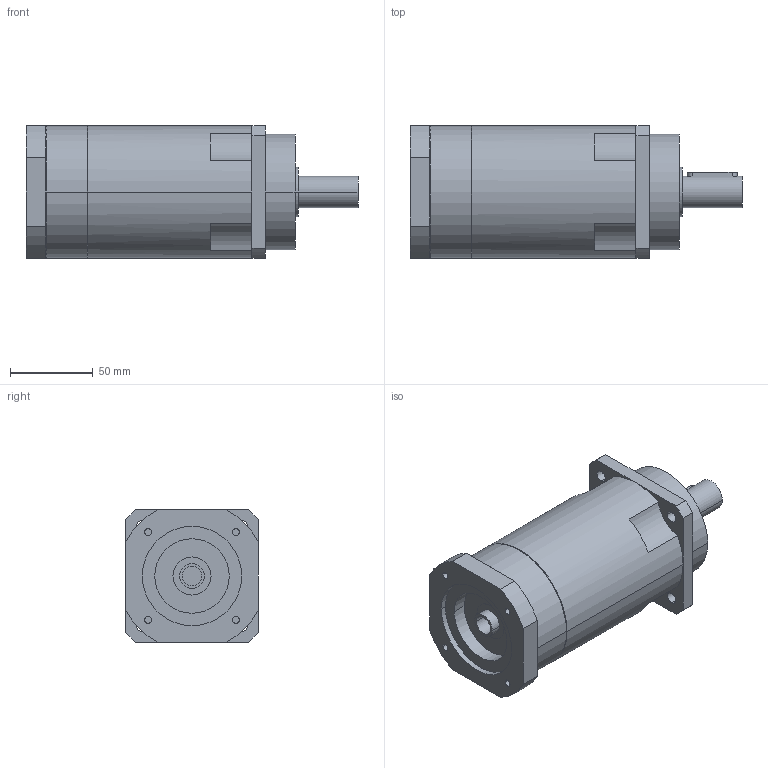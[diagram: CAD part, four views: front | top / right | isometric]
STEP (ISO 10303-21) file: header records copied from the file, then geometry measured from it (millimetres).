
FILE_DESCRIPTION(('CoCreate Modeling STEP Export'),'2;1');
FILE_NAME('GPR100_ig-48-64-80-100-120-144-180-216_19_B5_12_P23.stp','2014-08-26T11:53:39',(''),(''),'CoCreate Modeling STEP processor for AP214 (Solid Model)','CoCreate Modeling 16.00C 25-Feb-2009 (C) Parametric Technology GmbH','');
FILE_SCHEMA(('AUTOMOTIVE_DESIGN { 1 0 10303 214 1 1 1 1 }'));
Length unit declared in the file: millimetre
Products named in the file (2): GPR100_ig-48-64-80-100-120-144-180-216_19_B5_12_P23
Assembly tree (1 placements, depth 2):
  GPR100_ig-48-64-80-100-120-144-180-216_19_B5_12_P23
    GPR100_ig-48-64-80-100-120-144-180-216_19_B5_12_P23
Bounding box: 200.4 x 80 x 80 mm (x, y, z)
Volume: 791553.9 mm3; surface area: 62904.6 mm2
Topology: 1 solids, 1 shells, 93 faces, 243 edges, 165 vertices
Faces by surface type: cylinder 52, plane 35, cone 6
Entity records: 2596 total; most frequent: ORIENTED_EDGE 482, CARTESIAN_POINT 470, DIRECTION 386, EDGE_CURVE 241, VERTEX_POINT 165, AXIS2_PLACEMENT_3D 145, EDGE_LOOP 116, VECTOR 96
